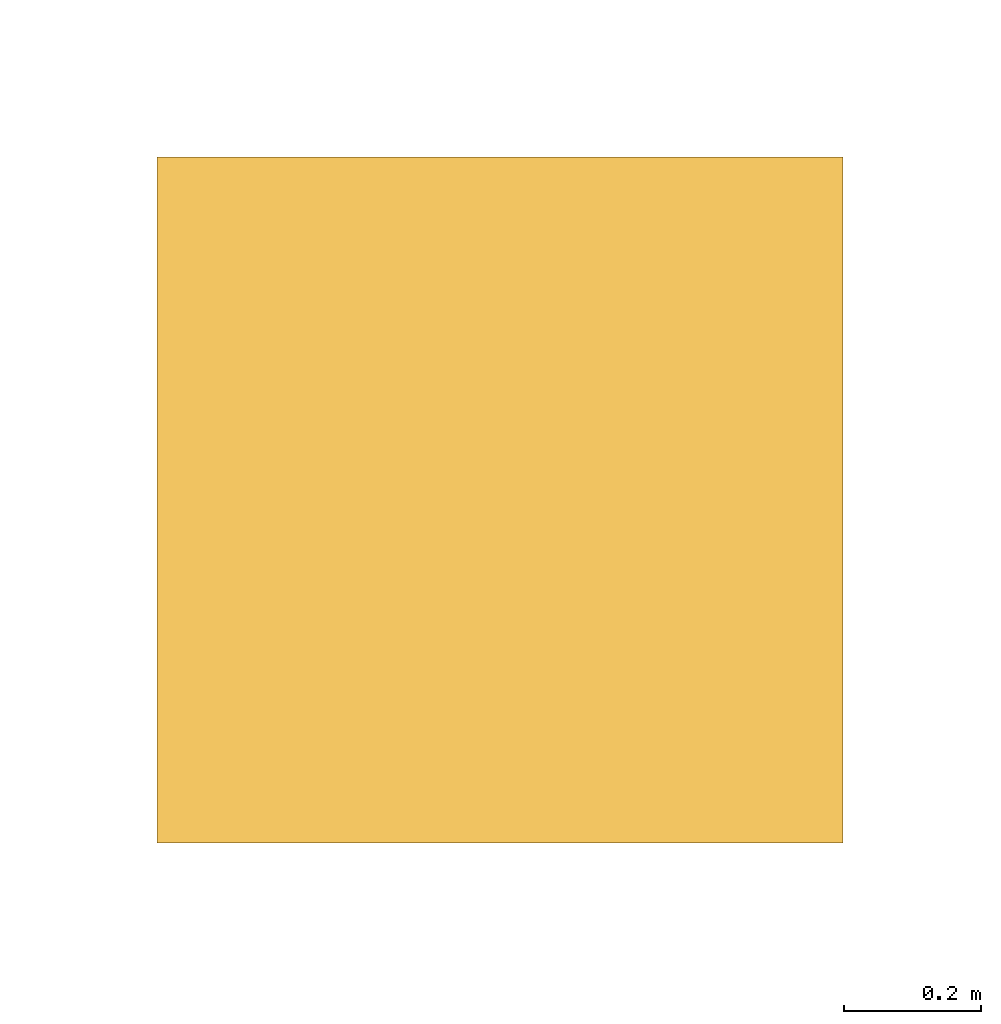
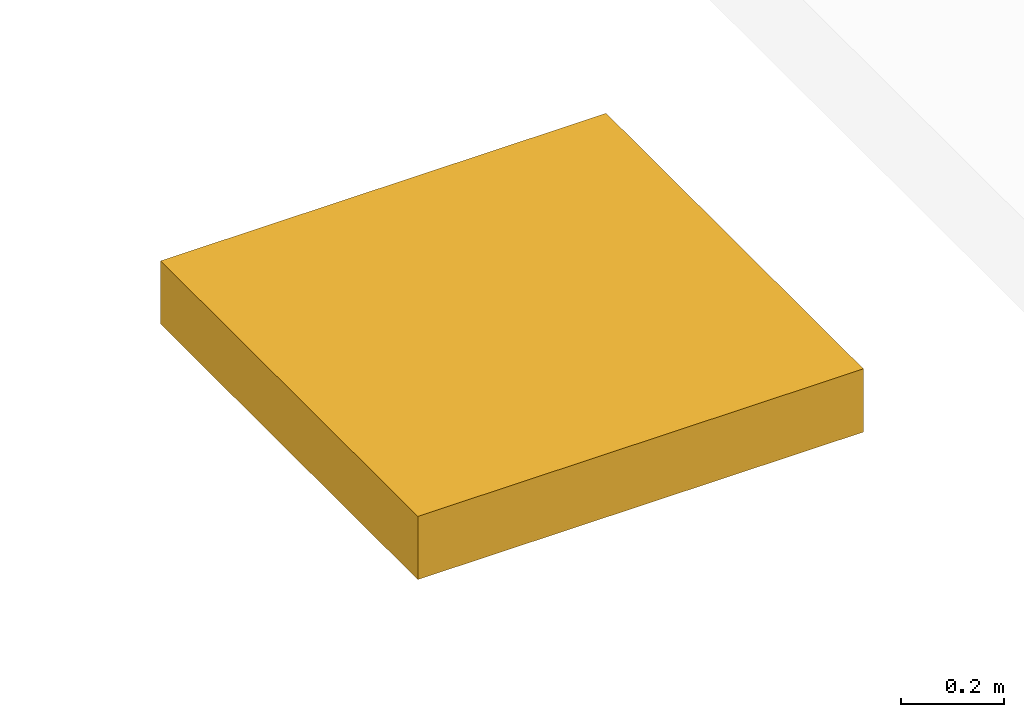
# One storey, part 8 of 8: 1 window.
"""IFC2X3 building model written with IfcOpenShell, lengths in metres."""

from ifc_helpers import new_model, entity, si_unit, converted_unit, derived_unit, money_unit, direction, frame, origin_with_axes, place, context, subcontext, project, spatial, open_shell, faceted_brep, surface_model, type_object, element, save


model = new_model("IFC2X3")

# Units and contexts
model_context = context("Model", 3, precision=1e-05, world=origin_with_axes(), true_north=direction((0.0, 1.0)))
body_context = subcontext(model_context, "Body", "Model", "MODEL_VIEW")
ifc_project = project(units=[si_unit("LENGTHUNIT", "METRE"), si_unit("AREAUNIT", "SQUARE_METRE"), si_unit("VOLUMEUNIT", "CUBIC_METRE"), converted_unit("PLANEANGLEUNIT", "DEGREE", entity("IfcPlaneAngleMeasure", 0.0174532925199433), si_unit("PLANEANGLEUNIT", "RADIAN"), dimensions=[0, 0, 0, 0, 0, 0, 0]), money_unit("EUR"), converted_unit("TIMEUNIT", "Year", entity("IfcTimeMeasure", 31557600.0), si_unit("TIMEUNIT", "SECOND"), dimensions=[0, 0, 1, 0, 0, 0, 0]), si_unit("MASSUNIT", "GRAM", prefix="KILO"), si_unit("THERMODYNAMICTEMPERATUREUNIT", "DEGREE_CELSIUS"), si_unit("LUMINOUSINTENSITYUNIT", "LUMEN"), si_unit("ENERGYUNIT", "JOULE", prefix="MEGA"), derived_unit("THERMALCONDUCTANCEUNIT", [(si_unit("POWERUNIT", "WATT"), 1), (si_unit("LENGTHUNIT", "METRE"), -1), (si_unit("THERMODYNAMICTEMPERATUREUNIT", "KELVIN"), -1)]), derived_unit("SPECIFICHEATCAPACITYUNIT", [(si_unit("ENERGYUNIT", "JOULE"), 1), (si_unit("MASSUNIT", "GRAM", prefix="KILO"), -1), (si_unit("THERMODYNAMICTEMPERATUREUNIT", "KELVIN"), -1)]), derived_unit("MASSDENSITYUNIT", [(si_unit("MASSUNIT", "GRAM", prefix="KILO"), 1), (si_unit("VOLUMEUNIT", "CUBIC_METRE"), -1)])], contexts=[model_context])

# Site, building, storey
site_placement = place(None, origin_with_axes())
site = spatial("IfcSite", under=ifc_project, at=site_placement, Name="Site", CompositionType="ELEMENT")
building_placement = place(site_placement, origin_with_axes())
building = spatial("IfcBuilding", under=site, at=building_placement, Name="Bâtiment", CompositionType="ELEMENT")
storey_placement = place(building_placement, frame((0.0, 0.0, 7.12), z_axis=(0.0, 0.0, 1.0), x_axis=(1.0, 0.0, 0.0)))
storey = spatial("IfcBuildingStorey", under=building, at=storey_placement, Name="Combles", CompositionType="ELEMENT", Elevation=7.12)

# Window
window_style = type_object("IfcWindowStyle", Name="Lanterneau plat 27", ConstructionType="NOTDEFINED", OperationType="NOTDEFINED", ParameterTakesPrecedence=False, Sizeable=False)
window_placement = place(storey_placement, frame((33.31300800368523, -18.60756214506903, 0.04903000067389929), z_axis=(0.0, 0.0, 1.0), x_axis=(-1.0, 0.0, 0.0)))
element("IfcWindow", 1, at=window_placement, inside=storey, type_object=window_style, Name="WC PMR", context=body_context, shape_type="SurfaceModel", body=[
    faceted_brep([(-0.5, 0.0, 0.0), (0.5, 0.0, 0.0), (0.5, 0.0, 0.15), (-0.5, 0.0, 0.15), (-0.5, 1.0, 0.0), (0.5, 1.0, 0.0), (-0.4, 0.1, 0.0), (0.4, 0.1, 0.0), (0.4, 0.9, 0.0), (-0.4, 0.9, 0.0), (0.5, 1.0, 0.15), (-0.5, 1.0, 0.15), (-0.4, 0.1, 0.15), (-0.4, 0.9, 0.15), (0.4, 0.9, 0.15), (0.4, 0.1, 0.15)], [[[0, 1, 2, 3]], [[0, 4, 5, 1], [6, 7, 8, 9]], [[1, 5, 10, 2]], [[3, 2, 10, 11], [12, 13, 14, 15]], [[4, 0, 3, 11]], [[5, 4, 11, 10]], [[7, 6, 12, 15]], [[8, 7, 15, 14]], [[9, 8, 14, 13]], [[6, 9, 13, 12]]]),
    surface_model("IfcShellBasedSurfaceModel", [(-0.4, 0.1, 0.15), (0.4, 0.1, 0.15), (0.4, 0.9, 0.15), (-0.4, 0.9, 0.15)], [open_shell([[[0, 1, 2, 3]]])]),
])

save(model, "model.ifc")
